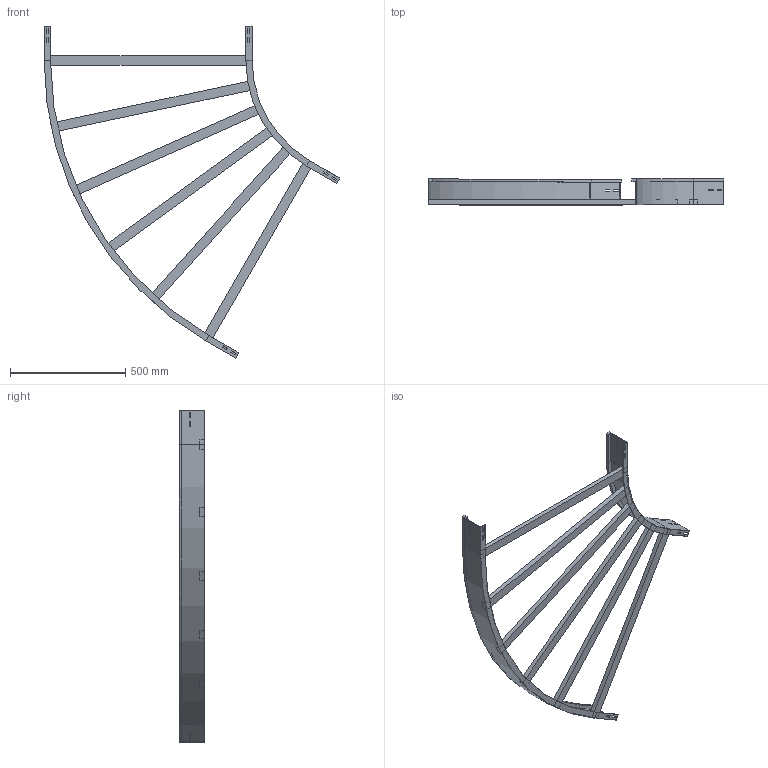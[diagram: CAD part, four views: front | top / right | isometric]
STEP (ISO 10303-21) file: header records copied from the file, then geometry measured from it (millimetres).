
FILE_DESCRIPTION (( 'STEP AP214' ), '1' );
FILE_NAME ('13B5J900.step', '2025-02-21T15:19:13', ( '' ), ( '' ), 'SwSTEP 2.0', 'SolidWorks 2023', '' );
FILE_SCHEMA (( 'AUTOMOTIVE_DESIGN' ));
Length unit declared in the file: millimetre
Products named in the file (4): 13B5J900; A2_LONGH.INTERNO 60°_H112.5_R500; TRAVERSINO_900; A2_LONGH.ESTERNO 60°_H112.5_R500+900
Assembly tree (8 placements, depth 2):
  13B5J900
    A2_LONGH.INTERNO 60°_H112.5_R500
    A2_LONGH.ESTERNO 60°_H112.5_R500+900
    TRAVERSINO_900  x6
Bounding box: 1279.9 x 112.5 x 1437.44 mm (x, y, z)
Volume: 5559010.4 mm3; surface area: 1464401 mm2
Topology: 8 solids, 8 shells, 152 faces, 376 edges, 240 vertices
Faces by surface type: plane 144, cylinder 8
Entity records: 3845 total; most frequent: CARTESIAN_POINT 649, ORIENTED_EDGE 632, DIRECTION 598, EDGE_CURVE 316, VECTOR 300, LINE 300, VERTEX_POINT 200, EDGE_LOOP 154
